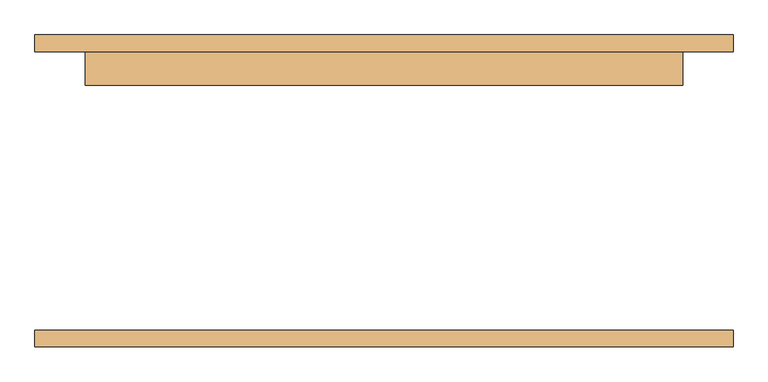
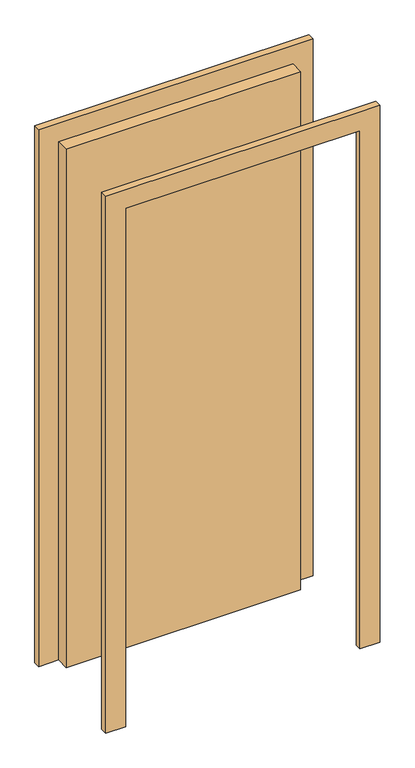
"""IFC4 building model written with IfcOpenShell, lengths in millimetres: door geometry, M_Однопольные-Щитовые : 21х9."""

from ifc_helpers import new_model, si_unit, frame, origin, origin_with_axes, place, context, project, spatial, polyline, outline, extrude, source, transform, mapped, element, save


def door_5e6033b2(model_context):
    return source(origin(), model_context, "Body", "SweptSolid", [
        extrude(outline(polyline([(2176.0, -526.0), (0.0, -526.0), (0.0, -450.0), (2100.0, -450.0), (2100.0, 450.0), (0.0, 450.0), (0.0, 526.0), (2176.0, 526.0), (2176.0, -526.0)])), frame((0.0, 210.0, 0.0), z_axis=(0.0, 1.0, 0.0), x_axis=(0.0, 0.0, 1.0)), (0.0, 0.0, 1.0), 25.0),
        extrude(outline(polyline([(2176.0, 526.0), (2176.0, -526.0), (0.0, -526.0), (0.0, -450.0), (2100.0, -450.0), (2100.0, 450.0), (0.0, 450.0), (0.0, 526.0), (2176.0, 526.0)])), frame((0.0, -235.0, 0.0), z_axis=(0.0, 1.0, 0.0), x_axis=(0.0, 0.0, 1.0)), (0.0, 0.0, 1.0), 25.0),
        extrude(outline(polyline([(450.0, 159.0), (-450.0, 159.0), (-450.0, 210.0), (450.0, 210.0), (450.0, 159.0)])), origin_with_axes(), (0.0, 0.0, 1.0), 2100.0),
    ])


if __name__ == "__main__":
    model = new_model("IFC4")
    model_context = context("Model", 3, world=origin())
    ifc_project = project(units=[si_unit("LENGTHUNIT", "METRE", prefix="MILLI")], contexts=[model_context])
    site = spatial("IfcSite", under=ifc_project)
    building = spatial("IfcBuilding", under=site)
    placement = place(None, origin())
    door_shape = door_5e6033b2(model_context)
    element("IfcDoor", 1, ObjectType="M_Однопольные-Щитовые : 21х9", at=placement, inside=building, context=model_context, shape_type="MappedRepresentation", body=[
        mapped(door_shape, transform((0.0, 0.0, 0.0), x_axis=(1.0, 0.0, 0.0), y_axis=(0.0, 1.0, 0.0), z_axis=(0.0, 0.0, 1.0))),
    ])
    save(model, "model.ifc")
